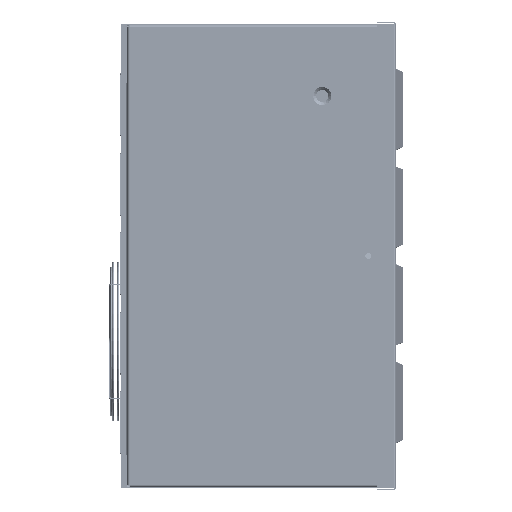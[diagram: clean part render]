
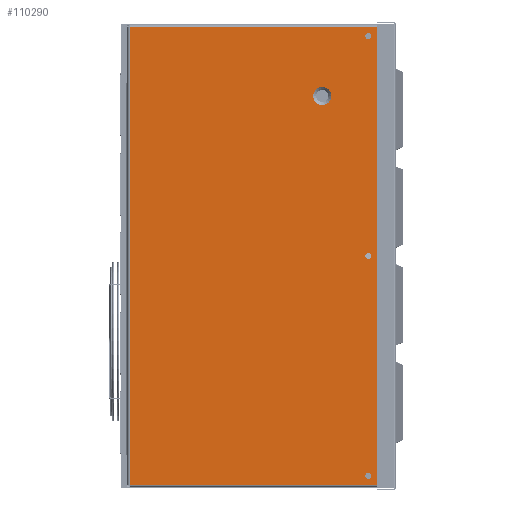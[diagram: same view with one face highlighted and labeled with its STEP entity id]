
A CAD part, front view. The second image highlights one B-rep face of the part: STEP entity #110290.
In plain terms, the highlighted planar face has unit normal (0, -1, 0).
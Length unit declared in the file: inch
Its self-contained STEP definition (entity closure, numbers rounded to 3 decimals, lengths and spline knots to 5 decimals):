
#108381=DIRECTION('',(-1.,0.,0.));
#108382=VECTOR('',#108381,10.6775);
#108383=CARTESIAN_POINT('',(10.76875,0.,-9.35875));
#108384=LINE('',#108383,#108382);
#108615=DIRECTION('',(1.,0.,0.));
#108616=VECTOR('',#108615,10.6775);
#108617=CARTESIAN_POINT('',(0.09125,0.,9.35875));
#108618=LINE('',#108617,#108616);
#108628=DIRECTION('',(0.,0.,-1.));
#108629=VECTOR('',#108628,18.7175);
#108630=CARTESIAN_POINT('',(0.09125,0.,9.35875));
#108631=LINE('',#108630,#108629);
#108632=CARTESIAN_POINT('',(7.98,0.,6.55));
#108633=DIRECTION('',(0.,-1.,0.));
#108634=DIRECTION('',(1.,0.,0.));
#108635=AXIS2_PLACEMENT_3D('',#108632,#108633,#108634);
#108637=CARTESIAN_POINT('',(7.98,0.,6.55));
#108638=DIRECTION('',(0.,-1.,0.));
#108639=DIRECTION('',(-1.,0.,0.));
#108640=AXIS2_PLACEMENT_3D('',#108637,#108638,#108639);
#108642=CARTESIAN_POINT('',(9.86,0.,-9.));
#108643=DIRECTION('',(0.,1.,0.));
#108644=DIRECTION('',(0.,0.,1.));
#108645=AXIS2_PLACEMENT_3D('',#108642,#108643,#108644);
#108647=CARTESIAN_POINT('',(9.86,0.,-9.));
#108648=DIRECTION('',(0.,1.,0.));
#108649=DIRECTION('',(0.,0.,-1.));
#108650=AXIS2_PLACEMENT_3D('',#108647,#108648,#108649);
#108652=CARTESIAN_POINT('',(9.86,0.,0.));
#108653=DIRECTION('',(0.,1.,0.));
#108654=DIRECTION('',(0.,0.,1.));
#108655=AXIS2_PLACEMENT_3D('',#108652,#108653,#108654);
#108657=CARTESIAN_POINT('',(9.86,0.,0.));
#108658=DIRECTION('',(0.,1.,0.));
#108659=DIRECTION('',(0.,0.,-1.));
#108660=AXIS2_PLACEMENT_3D('',#108657,#108658,#108659);
#108662=CARTESIAN_POINT('',(9.86,0.,9.));
#108663=DIRECTION('',(0.,1.,0.));
#108664=DIRECTION('',(0.,0.,1.));
#108665=AXIS2_PLACEMENT_3D('',#108662,#108663,#108664);
#108667=CARTESIAN_POINT('',(9.86,0.,9.));
#108668=DIRECTION('',(0.,1.,0.));
#108669=DIRECTION('',(0.,0.,-1.));
#108670=AXIS2_PLACEMENT_3D('',#108667,#108668,#108669);
#108682=DIRECTION('',(0.,0.,-1.));
#108683=VECTOR('',#108682,18.7175);
#108684=CARTESIAN_POINT('',(10.76875,0.,9.35875));
#108685=LINE('',#108684,#108683);
#109550=CARTESIAN_POINT('',(10.76875,0.,9.35875));
#109552=VERTEX_POINT('',#109550);
#109556=CARTESIAN_POINT('',(10.76875,0.,-9.35875));
#109557=VERTEX_POINT('',#109556);
#109566=CARTESIAN_POINT('',(0.09125,0.,9.35875));
#109568=VERTEX_POINT('',#109566);
#109570=CARTESIAN_POINT('',(0.09125,0.,-9.35875));
#109571=VERTEX_POINT('',#109570);
#109750=CARTESIAN_POINT('',(8.35,0.,6.55));
#109751=CARTESIAN_POINT('',(7.61,0.,6.55));
#109752=VERTEX_POINT('',#109750);
#109753=VERTEX_POINT('',#109751);
#109782=CARTESIAN_POINT('',(9.86,0.,9.125));
#109783=CARTESIAN_POINT('',(9.86,0.,8.875));
#109784=VERTEX_POINT('',#109782);
#109785=VERTEX_POINT('',#109783);
#109786=CARTESIAN_POINT('',(9.86,0.,0.125));
#109787=CARTESIAN_POINT('',(9.86,0.,-0.125));
#109788=VERTEX_POINT('',#109786);
#109789=VERTEX_POINT('',#109787);
#109790=CARTESIAN_POINT('',(9.86,0.,-8.875));
#109791=CARTESIAN_POINT('',(9.86,0.,-9.125));
#109792=VERTEX_POINT('',#109790);
#109793=VERTEX_POINT('',#109791);
#110253=CARTESIAN_POINT('',(0.09125,0.,9.45));
#110254=DIRECTION('',(0.,-1.,0.));
#110255=DIRECTION('',(1.,0.,0.));
#110256=AXIS2_PLACEMENT_3D('',#110253,#110254,#110255);
#110257=PLANE('',#110256);
#110258=ORIENTED_EDGE('',*,*,#110234,.T.);
#110260=ORIENTED_EDGE('',*,*,#110259,.T.);
#110261=ORIENTED_EDGE('',*,*,#110016,.T.);
#110263=ORIENTED_EDGE('',*,*,#110262,.F.);
#110264=EDGE_LOOP('',(#110258,#110260,#110261,#110263));
#110265=FACE_OUTER_BOUND('',#110264,.F.);
#110267=ORIENTED_EDGE('',*,*,#110266,.T.);
#110269=ORIENTED_EDGE('',*,*,#110268,.T.);
#110270=EDGE_LOOP('',(#110267,#110269));
#110271=FACE_BOUND('',#110270,.F.);
#110273=ORIENTED_EDGE('',*,*,#110272,.F.);
#110275=ORIENTED_EDGE('',*,*,#110274,.F.);
#110276=EDGE_LOOP('',(#110273,#110275));
#110277=FACE_BOUND('',#110276,.F.);
#110279=ORIENTED_EDGE('',*,*,#110278,.F.);
#110281=ORIENTED_EDGE('',*,*,#110280,.F.);
#110282=EDGE_LOOP('',(#110279,#110281));
#110283=FACE_BOUND('',#110282,.F.);
#110285=ORIENTED_EDGE('',*,*,#110284,.F.);
#110287=ORIENTED_EDGE('',*,*,#110286,.F.);
#110288=EDGE_LOOP('',(#110285,#110287));
#110289=FACE_BOUND('',#110288,.F.);
#110290=ADVANCED_FACE('',(#110265,#110271,#110277,#110283,#110289),#110257,.T.);
#108636=CIRCLE('',#108635,0.37);
#108641=CIRCLE('',#108640,0.37);
#108646=CIRCLE('',#108645,0.125);
#108651=CIRCLE('',#108650,0.125);
#108656=CIRCLE('',#108655,0.125);
#108661=CIRCLE('',#108660,0.125);
#108666=CIRCLE('',#108665,0.125);
#108671=CIRCLE('',#108670,0.125);
#110016=EDGE_CURVE('',#109557,#109571,#108384,.T.);
#110234=EDGE_CURVE('',#109568,#109552,#108618,.T.);
#110259=EDGE_CURVE('',#109552,#109557,#108685,.T.);
#110262=EDGE_CURVE('',#109568,#109571,#108631,.T.);
#110266=EDGE_CURVE('',#109752,#109753,#108636,.T.);
#110268=EDGE_CURVE('',#109753,#109752,#108641,.T.);
#110272=EDGE_CURVE('',#109792,#109793,#108646,.T.);
#110274=EDGE_CURVE('',#109793,#109792,#108651,.T.);
#110278=EDGE_CURVE('',#109788,#109789,#108656,.T.);
#110280=EDGE_CURVE('',#109789,#109788,#108661,.T.);
#110284=EDGE_CURVE('',#109784,#109785,#108666,.T.);
#110286=EDGE_CURVE('',#109785,#109784,#108671,.T.);
